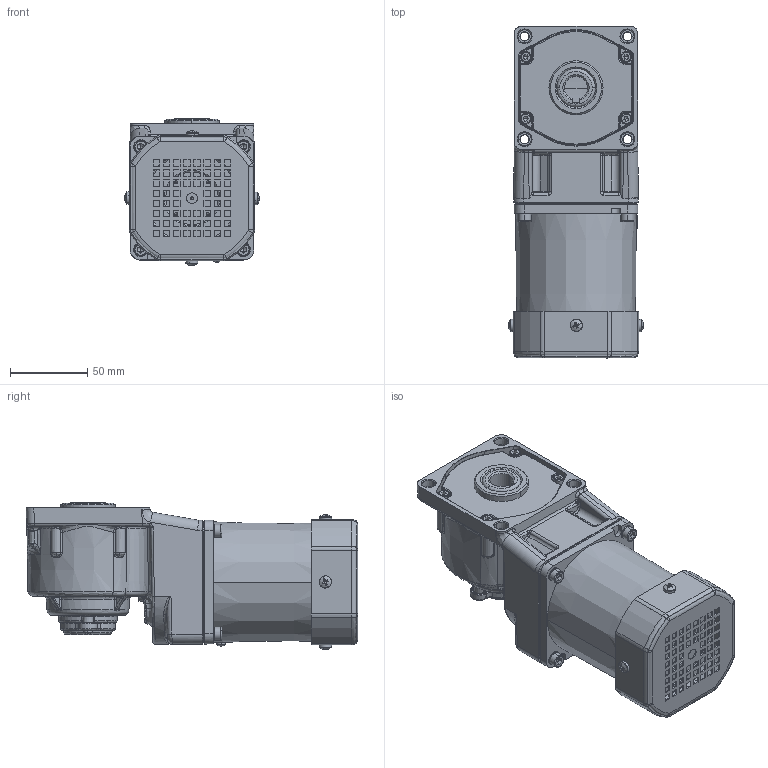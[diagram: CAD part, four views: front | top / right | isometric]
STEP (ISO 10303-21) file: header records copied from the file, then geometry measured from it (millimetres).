
FILE_DESCRIPTION (( 'STEP AP203' ), '1' );
FILE_NAME ('4IK40GN-CF(4GN3RC-180RC)ÐÂ.STEP', '2022-02-25T05:33:46', ( 'PC' ), ( 'Microsoft' ), 'SwSTEP 2.0', 'SolidWorks 2014', '' );
FILE_SCHEMA (( 'CONFIG_CONTROL_DESIGN' ));
Length unit declared in the file: millimetre
Products named in the file (16): 80綴傷裔; PRT0017^4IK25A-C_4IK40A-CF.STEP; zd-4gn1000rc-504-001-20211209（实心外形）; 4IK25A-C^4IK40A-CF.STEP; cross recessed pan head screws gb_GB_CROSS_SCREWS_TYPE1 M3X6-6  H type-N; 80FZ.STEP; 80眻褒眊裔; M4.STEP; 80諾陑怀堤粣; 4IK40GN-CF.STEP; hexagon socket head cap screws gb_GB_FASTENER_SCREWS_HSHCS M4X12-N; 4IK40GN-CF; M5X20-S^4ik25gn-c-4gn3-180rc_asm(2)_80RC; 4IK40GN-CF(4GN3RC-180RC)陔; 4IK25A-C_AF0^4IK25A-C_4IK40A-CF.STEP; PRT0016^4IK25A-C_4IK40A-CF.STEP
Assembly tree (25 placements, depth 5):
  4IK40GN-CF(4GN3RC-180RC)陔
    80綴傷裔
    zd-4gn1000rc-504-001-20211209（实心外形）
    cross recessed pan head screws gb_GB_CROSS_SCREWS_TYPE1 M3X6-6  H type-N  x2
    80眻褒眊裔
    80諾陑怀堤粣
    hexagon socket head cap screws gb_GB_FASTENER_SCREWS_HSHCS M4X12-N  x4
    M5X20-S^4ik25gn-c-4gn3-180rc_asm(2)_80RC  x4
    4IK40GN-CF
      4IK40GN-CF.STEP
        4IK25A-C^4IK40A-CF.STEP
          4IK25A-C_AF0^4IK25A-C_4IK40A-CF.STEP
          PRT0016^4IK25A-C_4IK40A-CF.STEP
          PRT0017^4IK25A-C_4IK40A-CF.STEP
        80FZ.STEP
        M4.STEP  x4
Bounding box: 87.04 x 214.47 x 95.02 mm (x, y, z)
Volume: 635882.5 mm3; surface area: 177742.5 mm2
Topology: 22 solids, 23 shells, 3347 faces, 7702 edges, 4379 vertices
Faces by surface type: cone 1275, cylinder 879, plane 671, bspline 448, torus 54, sphere 20
Entity records: 92359 total; most frequent: CARTESIAN_POINT 47229, ORIENTED_EDGE 9540, DIRECTION 8167, EDGE_CURVE 4770, AXIS2_PLACEMENT_3D 3024, VERTEX_POINT 2844, EDGE_LOOP 2232, LINE 2119
